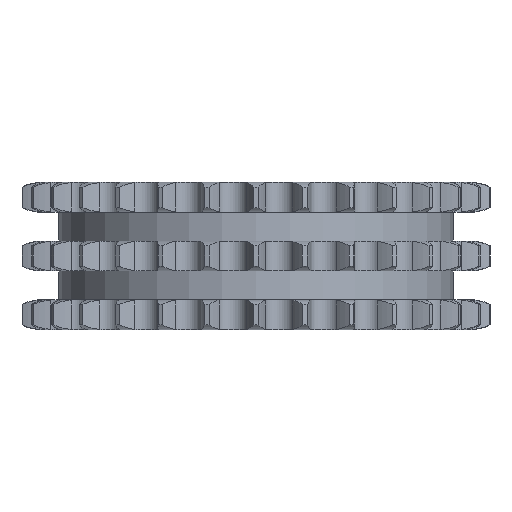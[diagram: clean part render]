
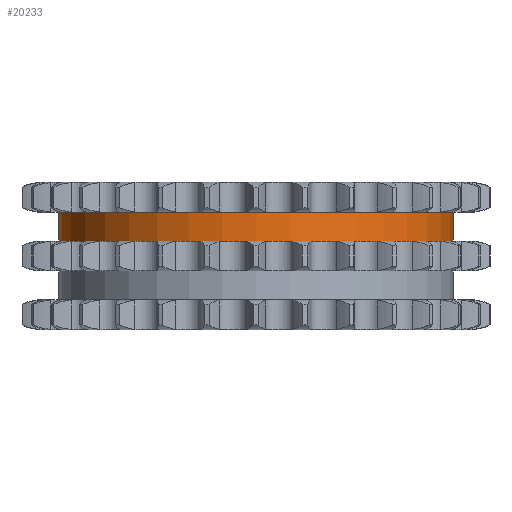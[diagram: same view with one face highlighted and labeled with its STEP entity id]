
A CAD part, left-side view. The second image highlights one B-rep face of the part: STEP entity #20233.
In plain terms, the highlighted cylindrical face has radius 106.498 mm (diameter 212.996 mm), a partial arc.
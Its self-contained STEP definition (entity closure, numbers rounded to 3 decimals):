
#4037=DIRECTION('',(0.,0.,-1.));
#4038=VECTOR('',#4037,15.5);
#4039=CARTESIAN_POINT('',(0.,106.498,23.6));
#4040=LINE('',#4039,#4038);
#4044=CARTESIAN_POINT('',(0.,0.,23.6));
#4045=DIRECTION('',(0.,0.,1.));
#4046=DIRECTION('',(0.,1.,0.));
#4047=AXIS2_PLACEMENT_3D('',#4044,#4045,#4046);
#4052=DIRECTION('',(0.,0.,-1.));
#4053=VECTOR('',#4052,15.5);
#4054=CARTESIAN_POINT('',(0.,-106.498,23.6));
#4055=LINE('',#4054,#4053);
#4059=CARTESIAN_POINT('',(0.,0.,8.1));
#4060=DIRECTION('',(0.,0.,1.));
#4061=DIRECTION('',(0.,1.,0.));
#4062=AXIS2_PLACEMENT_3D('',#4059,#4060,#4061);
#16232=CARTESIAN_POINT('',(0.,106.498,23.6));
#16233=CARTESIAN_POINT('',(0.,106.498,8.1));
#16234=VERTEX_POINT('',#16232);
#16235=VERTEX_POINT('',#16233);
#16236=CARTESIAN_POINT('',(0.,-106.498,23.6));
#16237=CARTESIAN_POINT('',(0.,-106.498,8.1));
#16238=VERTEX_POINT('',#16236);
#16239=VERTEX_POINT('',#16237);
#20221=CARTESIAN_POINT('',(0.,0.,25.96));
#20222=DIRECTION('',(0.,0.,-1.));
#20223=DIRECTION('',(0.,-1.,0.));
#20224=AXIS2_PLACEMENT_3D('',#20221,#20222,#20223);
#20225=CYLINDRICAL_SURFACE('',#20224,106.498);
#20226=ORIENTED_EDGE('',*,*,#20211,.F.);
#20227=ORIENTED_EDGE('',*,*,#20201,.T.);
#20228=ORIENTED_EDGE('',*,*,#20215,.T.);
#20230=ORIENTED_EDGE('',*,*,#20229,.F.);
#20231=EDGE_LOOP('',(#20226,#20227,#20228,#20230));
#20232=FACE_OUTER_BOUND('',#20231,.F.);
#20233=ADVANCED_FACE('',(#20232),#20225,.T.);
#4048=CIRCLE('',#4047,106.498);
#4063=CIRCLE('',#4062,106.498);
#20201=EDGE_CURVE('',#16234,#16238,#4048,.T.);
#20211=EDGE_CURVE('',#16234,#16235,#4040,.T.);
#20215=EDGE_CURVE('',#16238,#16239,#4055,.T.);
#20229=EDGE_CURVE('',#16235,#16239,#4063,.T.);
